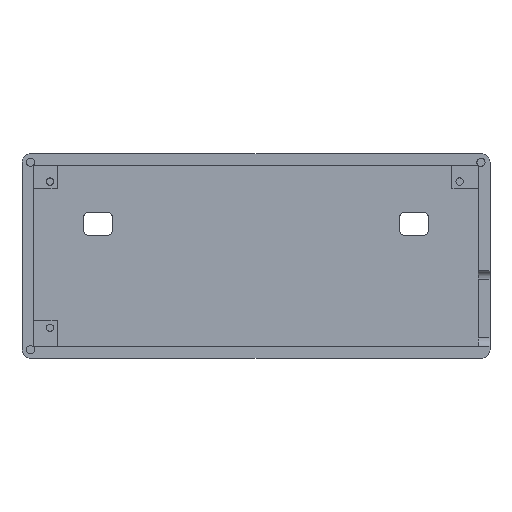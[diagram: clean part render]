
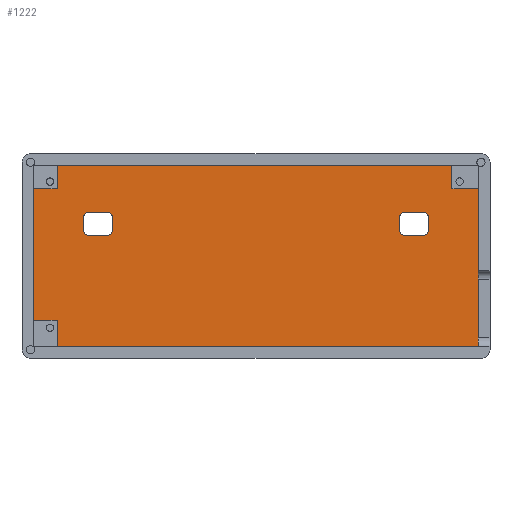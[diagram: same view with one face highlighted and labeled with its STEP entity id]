
A CAD part, top view. The second image highlights one B-rep face of the part: STEP entity #1222.
In plain terms, the highlighted planar face has unit normal (0, 0, 1).
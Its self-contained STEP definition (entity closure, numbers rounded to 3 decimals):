
#118=CARTESIAN_POINT('',(156.,138.,-14.));
#119=VERTEX_POINT('',#118);
#126=CARTESIAN_POINT('',(156.,84.,-14.));
#127=VERTEX_POINT('',#126);
#128=CARTESIAN_POINT('',(156.,138.,-14.));
#129=DIRECTION('',(0.,-1.,0.));
#130=VECTOR('',#129,54.);
#131=LINE('',#128,#130);
#132=EDGE_CURVE('',#119,#127,#131,.T.);
#182=CARTESIAN_POINT('',(147.,138.,-14.));
#183=VERTEX_POINT('',#182);
#184=CARTESIAN_POINT('',(147.,138.,-14.));
#185=DIRECTION('',(1.,0.,-0.));
#186=VECTOR('',#185,9.);
#187=LINE('',#184,#186);
#188=EDGE_CURVE('',#183,#119,#187,.T.);
#239=CARTESIAN_POINT('',(12.,146.,-14.));
#240=VERTEX_POINT('',#239);
#247=CARTESIAN_POINT('',(147.,146.,-14.));
#248=VERTEX_POINT('',#247);
#249=CARTESIAN_POINT('',(12.,146.,-14.));
#250=DIRECTION('',(1.,0.,-0.));
#251=VECTOR('',#250,135.);
#252=LINE('',#249,#251);
#253=EDGE_CURVE('',#240,#248,#252,.T.);
#269=CARTESIAN_POINT('',(12.,138.,-14.));
#270=VERTEX_POINT('',#269);
#271=CARTESIAN_POINT('',(12.,138.,-14.));
#272=DIRECTION('',(0.,1.,0.));
#273=VECTOR('',#272,8.);
#274=LINE('',#271,#273);
#275=EDGE_CURVE('',#270,#240,#274,.T.);
#344=CARTESIAN_POINT('',(4.,138.,-14.));
#345=VERTEX_POINT('',#344);
#352=CARTESIAN_POINT('',(4.,138.,-14.));
#353=DIRECTION('',(1.,0.,-0.));
#354=VECTOR('',#353,8.);
#355=LINE('',#352,#354);
#356=EDGE_CURVE('',#345,#270,#355,.T.);
#368=CARTESIAN_POINT('',(12.,84.,-14.));
#369=VERTEX_POINT('',#368);
#417=CARTESIAN_POINT('',(156.,84.,-14.));
#418=DIRECTION('',(-1.,0.,0.));
#419=VECTOR('',#418,144.);
#420=LINE('',#417,#419);
#421=EDGE_CURVE('',#127,#369,#420,.T.);
#483=CARTESIAN_POINT('',(12.,93.,-14.));
#484=VERTEX_POINT('',#483);
#485=CARTESIAN_POINT('',(12.,84.,-14.));
#486=DIRECTION('',(0.,1.,0.));
#487=VECTOR('',#486,9.);
#488=LINE('',#485,#487);
#489=EDGE_CURVE('',#369,#484,#488,.T.);
#506=CARTESIAN_POINT('',(4.,93.,-14.));
#507=VERTEX_POINT('',#506);
#508=CARTESIAN_POINT('',(12.,93.,-14.));
#509=DIRECTION('',(-1.,0.,0.));
#510=VECTOR('',#509,8.);
#511=LINE('',#508,#510);
#512=EDGE_CURVE('',#484,#507,#511,.T.);
#757=CARTESIAN_POINT('',(4.,93.,-14.));
#758=DIRECTION('',(0.,1.,0.));
#759=VECTOR('',#758,45.);
#760=LINE('',#757,#759);
#761=EDGE_CURVE('',#507,#345,#760,.T.);
#1060=CARTESIAN_POINT('',(0.,0.,-14.));
#1061=DIRECTION('',(0.,0.,1.));
#1062=DIRECTION('',(1.,0.,0.));
#1063=AXIS2_PLACEMENT_3D('',#1060,#1061,#1062);
#1064=PLANE('',#1063);
#1065=CARTESIAN_POINT('',(147.,146.,-14.));
#1066=DIRECTION('',(0.,-1.,0.));
#1067=VECTOR('',#1066,8.);
#1068=LINE('',#1065,#1067);
#1069=EDGE_CURVE('',#248,#183,#1068,.T.);
#1070=ORIENTED_EDGE('',*,*,#1069,.F.);
#1071=ORIENTED_EDGE('',*,*,#253,.F.);
#1072=ORIENTED_EDGE('',*,*,#275,.F.);
#1073=ORIENTED_EDGE('',*,*,#356,.F.);
#1074=ORIENTED_EDGE('',*,*,#761,.F.);
#1075=ORIENTED_EDGE('',*,*,#512,.F.);
#1076=ORIENTED_EDGE('',*,*,#489,.F.);
#1077=ORIENTED_EDGE('',*,*,#421,.F.);
#1078=ORIENTED_EDGE('',*,*,#132,.F.);
#1079=ORIENTED_EDGE('',*,*,#188,.F.);
#1080=EDGE_LOOP('',(#1070,#1071,#1072,#1073,#1074,#1075,#1076,#1077,#1078,#1079));
#1081=FACE_BOUND('',#1080,.T.);
#1082=CARTESIAN_POINT('',(21.,128.,-14.));
#1083=VERTEX_POINT('',#1082);
#1084=CARTESIAN_POINT('',(21.,124.,-14.));
#1085=VERTEX_POINT('',#1084);
#1086=CARTESIAN_POINT('',(21.,128.,-14.));
#1087=DIRECTION('',(0.,-1.,0.));
#1088=VECTOR('',#1087,4.);
#1089=LINE('',#1086,#1088);
#1090=EDGE_CURVE('',#1083,#1085,#1089,.T.);
#1091=ORIENTED_EDGE('',*,*,#1090,.F.);
#1092=CARTESIAN_POINT('',(23.,130.,-14.));
#1093=VERTEX_POINT('',#1092);
#1094=CARTESIAN_POINT('',(23.,128.,-14.));
#1095=DIRECTION('',(-0.,-0.,-1.));
#1096=DIRECTION('',(1.,0.,-0.));
#1097=AXIS2_PLACEMENT_3D('',#1094,#1095,#1096);
#1098=CIRCLE('',#1097,2.);
#1099=EDGE_CURVE('',#1083,#1093,#1098,.T.);
#1100=ORIENTED_EDGE('',*,*,#1099,.T.);
#1101=CARTESIAN_POINT('',(29.,130.,-14.));
#1102=VERTEX_POINT('',#1101);
#1103=CARTESIAN_POINT('',(29.,130.,-14.));
#1104=DIRECTION('',(-1.,0.,0.));
#1105=VECTOR('',#1104,6.);
#1106=LINE('',#1103,#1105);
#1107=EDGE_CURVE('',#1102,#1093,#1106,.T.);
#1108=ORIENTED_EDGE('',*,*,#1107,.F.);
#1109=CARTESIAN_POINT('',(31.,128.,-14.));
#1110=VERTEX_POINT('',#1109);
#1111=CARTESIAN_POINT('',(29.,128.,-14.));
#1112=DIRECTION('',(-0.,-0.,-1.));
#1113=DIRECTION('',(1.,0.,-0.));
#1114=AXIS2_PLACEMENT_3D('',#1111,#1112,#1113);
#1115=CIRCLE('',#1114,2.);
#1116=EDGE_CURVE('',#1102,#1110,#1115,.T.);
#1117=ORIENTED_EDGE('',*,*,#1116,.T.);
#1118=CARTESIAN_POINT('',(31.,124.,-14.));
#1119=VERTEX_POINT('',#1118);
#1120=CARTESIAN_POINT('',(31.,124.,-14.));
#1121=DIRECTION('',(0.,1.,0.));
#1122=VECTOR('',#1121,4.);
#1123=LINE('',#1120,#1122);
#1124=EDGE_CURVE('',#1119,#1110,#1123,.T.);
#1125=ORIENTED_EDGE('',*,*,#1124,.F.);
#1126=CARTESIAN_POINT('',(29.,122.,-14.));
#1127=VERTEX_POINT('',#1126);
#1128=CARTESIAN_POINT('',(29.,124.,-14.));
#1129=DIRECTION('',(-0.,-0.,-1.));
#1130=DIRECTION('',(1.,0.,-0.));
#1131=AXIS2_PLACEMENT_3D('',#1128,#1129,#1130);
#1132=CIRCLE('',#1131,2.);
#1133=EDGE_CURVE('',#1119,#1127,#1132,.T.);
#1134=ORIENTED_EDGE('',*,*,#1133,.T.);
#1135=CARTESIAN_POINT('',(23.,122.,-14.));
#1136=VERTEX_POINT('',#1135);
#1137=CARTESIAN_POINT('',(23.,122.,-14.));
#1138=DIRECTION('',(1.,0.,-0.));
#1139=VECTOR('',#1138,6.);
#1140=LINE('',#1137,#1139);
#1141=EDGE_CURVE('',#1136,#1127,#1140,.T.);
#1142=ORIENTED_EDGE('',*,*,#1141,.F.);
#1143=CARTESIAN_POINT('',(23.,124.,-14.));
#1144=DIRECTION('',(-0.,-0.,-1.));
#1145=DIRECTION('',(1.,0.,-0.));
#1146=AXIS2_PLACEMENT_3D('',#1143,#1144,#1145);
#1147=CIRCLE('',#1146,2.);
#1148=EDGE_CURVE('',#1136,#1085,#1147,.T.);
#1149=ORIENTED_EDGE('',*,*,#1148,.T.);
#1150=EDGE_LOOP('',(#1091,#1100,#1108,#1117,#1125,#1134,#1142,#1149));
#1151=FACE_BOUND('',#1150,.T.);
#1152=CARTESIAN_POINT('',(129.,128.,-14.));
#1153=VERTEX_POINT('',#1152);
#1154=CARTESIAN_POINT('',(129.,124.,-14.));
#1155=VERTEX_POINT('',#1154);
#1156=CARTESIAN_POINT('',(129.,128.,-14.));
#1157=DIRECTION('',(0.,-1.,0.));
#1158=VECTOR('',#1157,4.);
#1159=LINE('',#1156,#1158);
#1160=EDGE_CURVE('',#1153,#1155,#1159,.T.);
#1161=ORIENTED_EDGE('',*,*,#1160,.F.);
#1162=CARTESIAN_POINT('',(131.,130.,-14.));
#1163=VERTEX_POINT('',#1162);
#1164=CARTESIAN_POINT('',(131.,128.,-14.));
#1165=DIRECTION('',(-0.,-0.,-1.));
#1166=DIRECTION('',(1.,0.,-0.));
#1167=AXIS2_PLACEMENT_3D('',#1164,#1165,#1166);
#1168=CIRCLE('',#1167,2.);
#1169=EDGE_CURVE('',#1153,#1163,#1168,.T.);
#1170=ORIENTED_EDGE('',*,*,#1169,.T.);
#1171=CARTESIAN_POINT('',(137.,130.,-14.));
#1172=VERTEX_POINT('',#1171);
#1173=CARTESIAN_POINT('',(137.,130.,-14.));
#1174=DIRECTION('',(-1.,0.,0.));
#1175=VECTOR('',#1174,6.);
#1176=LINE('',#1173,#1175);
#1177=EDGE_CURVE('',#1172,#1163,#1176,.T.);
#1178=ORIENTED_EDGE('',*,*,#1177,.F.);
#1179=CARTESIAN_POINT('',(139.,128.,-14.));
#1180=VERTEX_POINT('',#1179);
#1181=CARTESIAN_POINT('',(137.,128.,-14.));
#1182=DIRECTION('',(-0.,-0.,-1.));
#1183=DIRECTION('',(1.,0.,-0.));
#1184=AXIS2_PLACEMENT_3D('',#1181,#1182,#1183);
#1185=CIRCLE('',#1184,2.);
#1186=EDGE_CURVE('',#1172,#1180,#1185,.T.);
#1187=ORIENTED_EDGE('',*,*,#1186,.T.);
#1188=CARTESIAN_POINT('',(139.,124.,-14.));
#1189=VERTEX_POINT('',#1188);
#1190=CARTESIAN_POINT('',(139.,124.,-14.));
#1191=DIRECTION('',(0.,1.,0.));
#1192=VECTOR('',#1191,4.);
#1193=LINE('',#1190,#1192);
#1194=EDGE_CURVE('',#1189,#1180,#1193,.T.);
#1195=ORIENTED_EDGE('',*,*,#1194,.F.);
#1196=CARTESIAN_POINT('',(137.,122.,-14.));
#1197=VERTEX_POINT('',#1196);
#1198=CARTESIAN_POINT('',(137.,124.,-14.));
#1199=DIRECTION('',(-0.,-0.,-1.));
#1200=DIRECTION('',(1.,0.,-0.));
#1201=AXIS2_PLACEMENT_3D('',#1198,#1199,#1200);
#1202=CIRCLE('',#1201,2.);
#1203=EDGE_CURVE('',#1189,#1197,#1202,.T.);
#1204=ORIENTED_EDGE('',*,*,#1203,.T.);
#1205=CARTESIAN_POINT('',(131.,122.,-14.));
#1206=VERTEX_POINT('',#1205);
#1207=CARTESIAN_POINT('',(131.,122.,-14.));
#1208=DIRECTION('',(1.,0.,-0.));
#1209=VECTOR('',#1208,6.);
#1210=LINE('',#1207,#1209);
#1211=EDGE_CURVE('',#1206,#1197,#1210,.T.);
#1212=ORIENTED_EDGE('',*,*,#1211,.F.);
#1213=CARTESIAN_POINT('',(131.,124.,-14.));
#1214=DIRECTION('',(-0.,-0.,-1.));
#1215=DIRECTION('',(1.,0.,-0.));
#1216=AXIS2_PLACEMENT_3D('',#1213,#1214,#1215);
#1217=CIRCLE('',#1216,2.);
#1218=EDGE_CURVE('',#1206,#1155,#1217,.T.);
#1219=ORIENTED_EDGE('',*,*,#1218,.T.);
#1220=EDGE_LOOP('',(#1161,#1170,#1178,#1187,#1195,#1204,#1212,#1219));
#1221=FACE_BOUND('',#1220,.T.);
#1222=ADVANCED_FACE('',(#1081,#1151,#1221),#1064,.T.);
